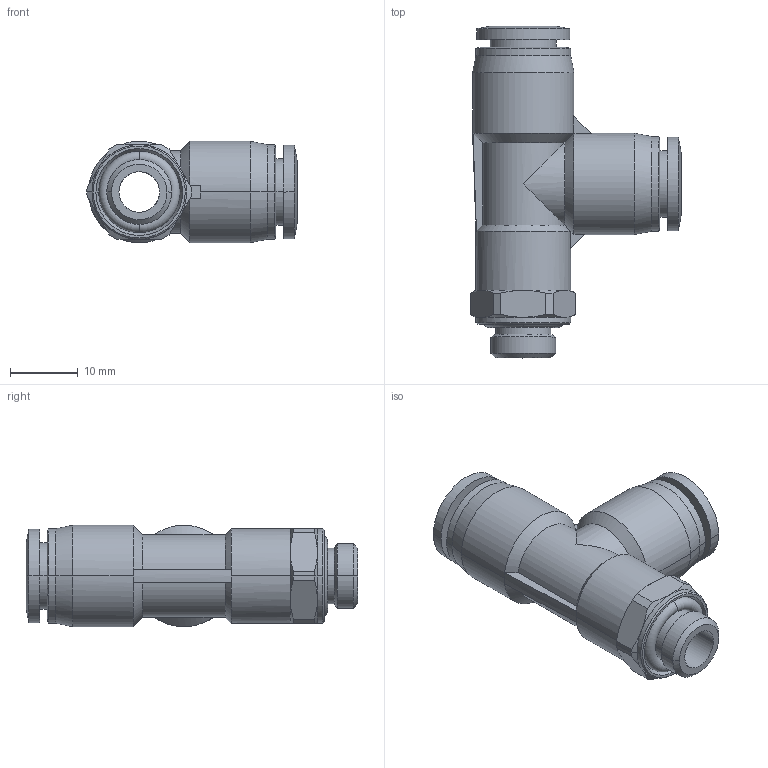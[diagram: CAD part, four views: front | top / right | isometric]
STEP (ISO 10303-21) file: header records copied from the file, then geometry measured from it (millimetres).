
FILE_DESCRIPTION (( 'STEP AP203' ), '1' );
FILE_NAME ('FLT08-01.STEP', '2020-05-12T14:16:06', ( '' ), ( '' ), 'SwSTEP 2.0', 'SolidWorks 2019', '' );
FILE_SCHEMA (( 'CONFIG_CONTROL_DESIGN' ));
Length unit declared in the file: millimetre
Products named in the file (1): FLT08-01
Bounding box: 31.1 x 49.1 x 14.99 mm (x, y, z)
Surface area: 5304.7 mm2 (no closed solid volume)
Topology: 0 solids, 4 shells, 121 faces, 294 edges, 183 vertices
Faces by surface type: cylinder 46, cone 40, plane 26, bspline 5, torus 4
Entity records: 5751 total; most frequent: CARTESIAN_POINT 3351, ORIENTED_EDGE 572, DIRECTION 301, EDGE_CURVE 294, B_SPLINE_CURVE_WITH_KNOTS 219, VERTEX_POINT 183, EDGE_LOOP 133, FACE_OUTER_BOUND 121
